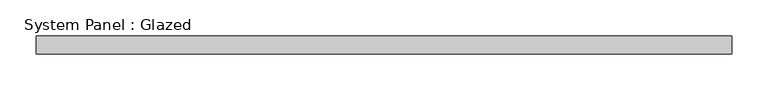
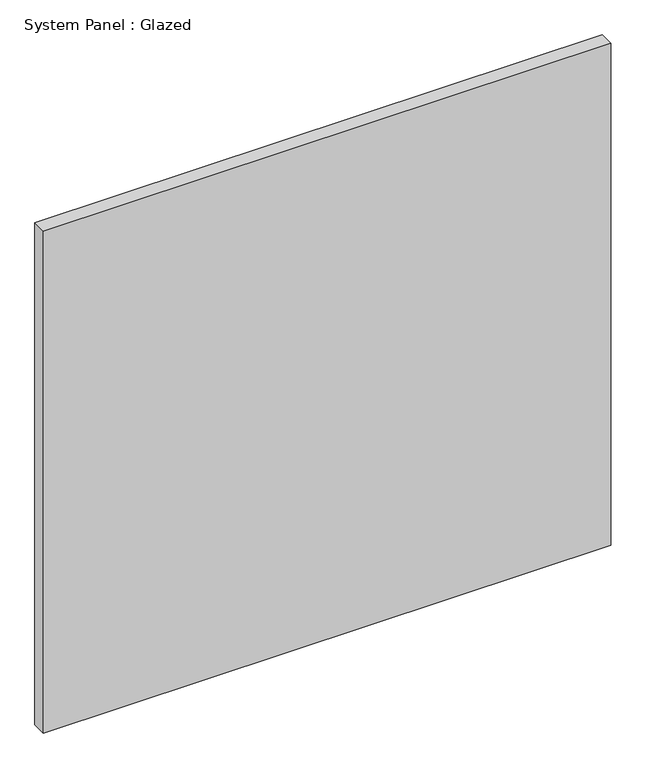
"""IFC4 building model written with IfcOpenShell, lengths in millimetres: plate geometry, System Panel : Glazed."""

from ifc_helpers import new_model, si_unit, origin, origin_with_axes, place, context, project, spatial, polyline, outline, extrude, source, transform, mapped, element, save


def system_panel_glazed_804a8251(model_context):
    return source(origin(), model_context, "Body", "SweptSolid", [
        extrude(outline(polyline([(482.5, 24.5), (-482.5, 24.5), (-482.5, 49.5), (482.5, 49.5), (482.5, 24.5)])), origin_with_axes(), (0.0, 0.0, 1.0), 902.3119055),
    ])


if __name__ == "__main__":
    model = new_model("IFC4")
    model_context = context("Model", 3, world=origin())
    ifc_project = project(units=[si_unit("LENGTHUNIT", "METRE", prefix="MILLI")], contexts=[model_context])
    site = spatial("IfcSite", under=ifc_project)
    building = spatial("IfcBuilding", under=site)
    placement = place(None, origin())
    system_panel_glazed_shape = system_panel_glazed_804a8251(model_context)
    element("IfcPlate", 1, ObjectType="System Panel : Glazed", at=placement, inside=building, context=model_context, shape_type="MappedRepresentation", body=[
        mapped(system_panel_glazed_shape, transform((0.0, 0.0, 0.0), x_axis=(1.0, 0.0, 0.0), y_axis=(0.0, 1.0, 0.0), z_axis=(0.0, 0.0, 1.0))),
    ])
    save(model, "model.ifc")
